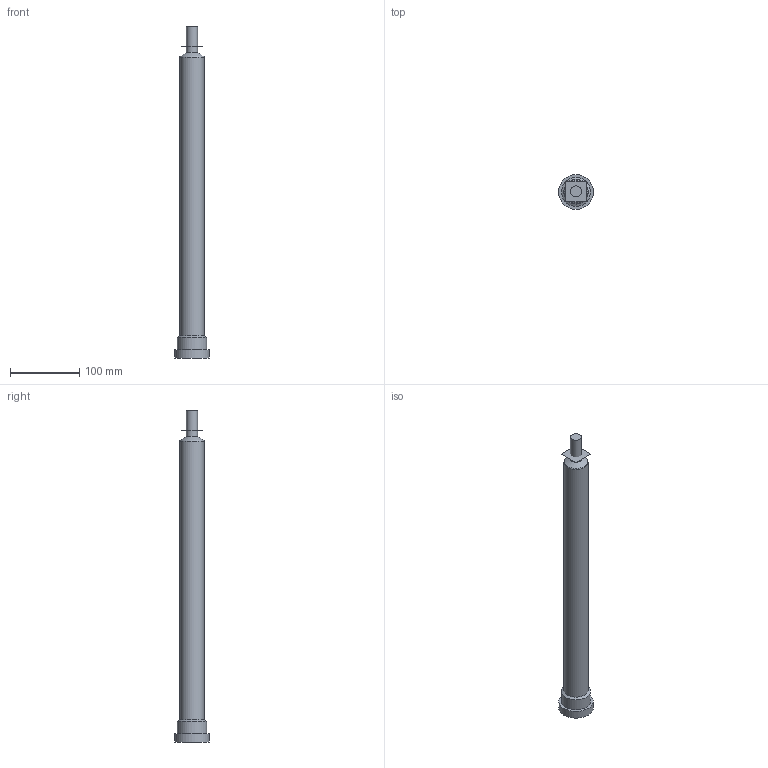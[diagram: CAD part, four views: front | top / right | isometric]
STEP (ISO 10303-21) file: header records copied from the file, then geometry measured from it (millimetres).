
FILE_DESCRIPTION (( 'STEP AP214' ), '1' );
FILE_NAME ('12E-06-450_##P.STEP', '2020-11-17T06:38:02', ( '' ), ( '' ), 'SwSTEP 2.0', 'SolidWorks 2018', '' );
FILE_SCHEMA (( 'AUTOMOTIVE_DESIGN' ));
Length unit declared in the file: millimetre
Products named in the file (3): 12E-06-450_##P; cutout_12E-06-450-##P; nozzle_12E-06-450-##P
Assembly tree (2 placements, depth 2):
  12E-06-450_##P
    nozzle_12E-06-450-##P
    cutout_12E-06-450-##P
Bounding box: 50 x 50 x 480 mm (x, y, z)
Volume: 450111.6 mm3; surface area: 103383.8 mm2
Topology: 1 solids, 12 shells, 180 faces, 481 edges, 313 vertices
Faces by surface type: plane 90, cylinder 67, torus 15, cone 8
Full cylindrical faces by diameter (mm): 2 x2, 6 x2, 15.661 x1, 16 x2, 21 x1, 24 x1, 25 x1, 28 x1, 31 x1, 35 x1, 42 x1, 50 x1
Entity records: 5993 total; most frequent: CARTESIAN_POINT 1471, DIRECTION 950, ORIENTED_EDGE 882, EDGE_CURVE 443, AXIS2_PLACEMENT_3D 354, VERTEX_POINT 301, LINE 242, VECTOR 242
